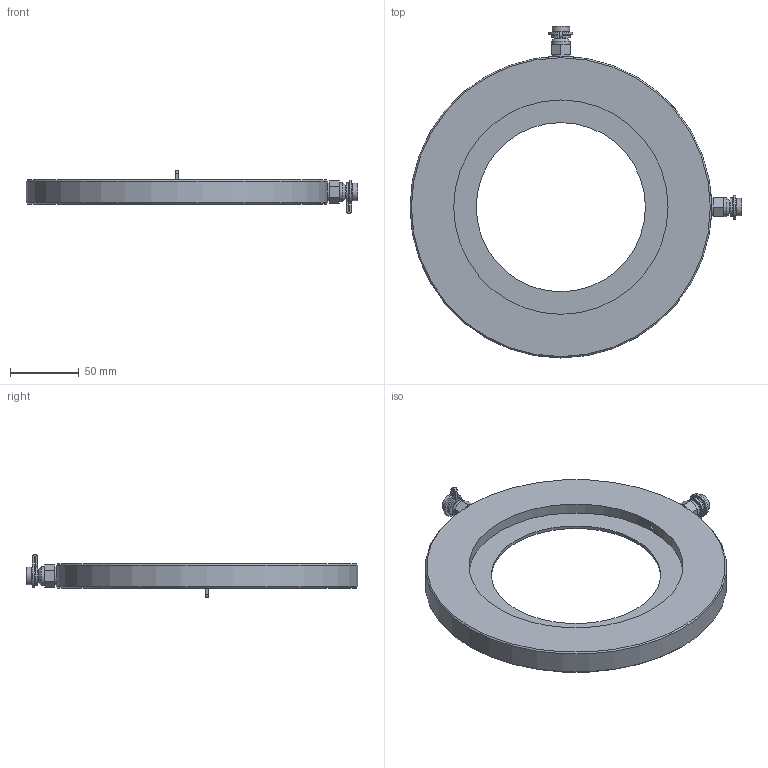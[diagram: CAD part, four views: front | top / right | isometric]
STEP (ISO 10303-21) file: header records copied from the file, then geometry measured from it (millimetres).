
FILE_DESCRIPTION((''),'2;1');
FILE_NAME('P:\Fastrack\53972_CRANE 3D\Workspace\DM900_DN150\DM900_DN150.stp','2010-12-23T11:15:10',('btaylor'),(''),'Autodesk Inventor 2008','Autodesk Inventor 2008','');
FILE_SCHEMA(('AUTOMOTIVE_DESIGN { 1 0 10303 214 1 1 1 1 }'));
Length unit declared in the file: millimetre
Products named in the file (1): DM900_DN150
Bounding box: 242.1 x 242.1 x 31.45 mm (x, y, z)
Volume: 361197.9 mm3; surface area: 75931.3 mm2
Topology: 1 solids, 1 shells, 103 faces, 231 edges, 149 vertices
Faces by surface type: plane 48, cylinder 29, bspline 18, cone 8
Full cylindrical faces by diameter (mm): 3.2 x2, 7.4 x2, 11 x2, 12.7 x2, 13.7 x2, 123.4 x1, 156.3 x2, 220 x1
Entity records: 7441 total; most frequent: CARTESIAN_POINT 5210, ORIENTED_EDGE 392, DIRECTION 390, EDGE_CURVE 196, EDGE_LOOP 152, AXIS2_PLACEMENT_3D 150, VERTEX_POINT 138, STYLED_ITEM 104
